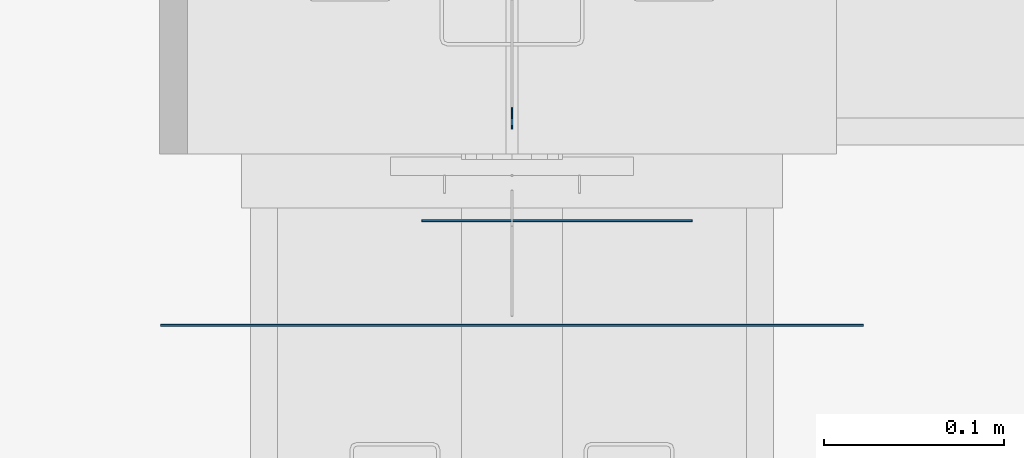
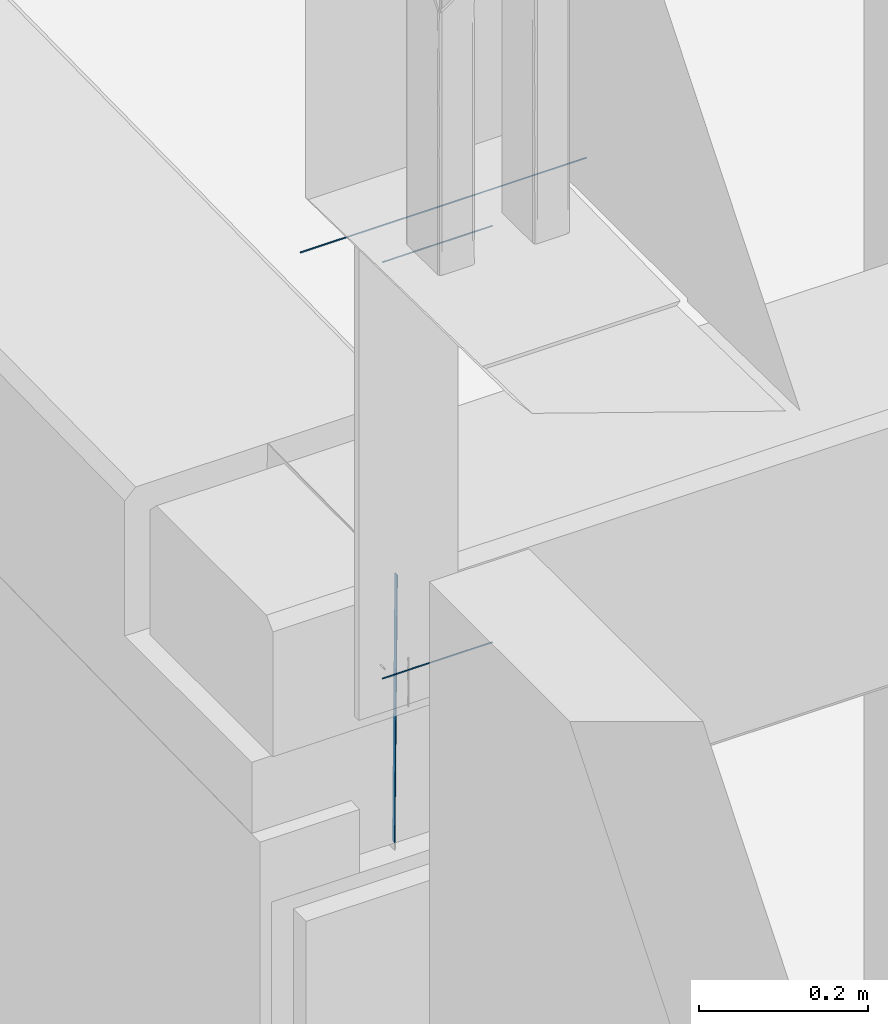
# One storey, part 45 of 186: 4 beams.
"""IFC4X3_ADD2 building model written with IfcOpenShell, lengths in millimetres."""

from ifc_helpers import new_model, si_unit, direction, frame, frame_2d, origin_with_axes, place, context, subcontext, project, spatial, rectangle, extrude, material, element, save


model = new_model("IFC4X3_ADD2")

# Units and contexts
model_context = context("Model", 3, precision=1e-05, world=origin_with_axes(), true_north=direction((0.0, 1.0)))
body_context = subcontext(model_context, "Body", "Model", "MODEL_VIEW")
ifc_project = project(units=[si_unit("LENGTHUNIT", "METRE", prefix="MILLI"), si_unit("AREAUNIT", "SQUARE_METRE"), si_unit("VOLUMEUNIT", "CUBIC_METRE"), si_unit("PLANEANGLEUNIT", "RADIAN"), si_unit("TIMEUNIT", "SECOND"), si_unit("MASSUNIT", "GRAM")], contexts=[model_context])

# Site, building, storey
site_placement = place(None, origin_with_axes())
site = spatial("IfcSite", under=ifc_project, at=site_placement, Name="Site", CompositionType="ELEMENT")
building_placement = place(site_placement, origin_with_axes())
building = spatial("IfcBuilding", under=site, at=building_placement, Name="IFC Building Story")
storey_placement = place(building_placement, frame((0.0, 0.0, 4370.0), z_axis=(0.0, 0.0, 1.0), x_axis=(1.0, 0.0, 0.0)))
storey = spatial("IfcBuildingStorey", under=building, at=storey_placement, Name="ETAGE 10 (1)", Elevation=4370.0)

# Beams
ifc_material_1 = material(Name="STEEL/Accessory_invisible 261")
beam_1_placement = place(storey_placement, frame((39966.6890204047, 18019.8072128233, 3035.47314242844), z_axis=(-1.0, 0.0, 0.0), x_axis=(0.0, -0.01553280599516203, 0.9998793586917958)))
element("IfcBeam", 1, at=beam_1_placement, inside=storey, material=ifc_material_1, Name="BEK4", ObjectType="6*1 7", context=body_context, shape_type="SweptSolid", body=[
    extrude(rectangle(XDim=389.000000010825, YDim=5.999999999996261, at=frame_2d((0.0, 5.95523630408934e-12), x_axis=(1.0, 0.0))), origin_with_axes(), (0.0, 0.0, 1.0), 1.0),
])
ifc_material_2 = material(Name="STEEL/Accessory_invisible")
beam_2_placement = place(storey_placement, frame((40161.189, 17905.0, 3829.449999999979), z_axis=(-1.0, 0.0, 0.0), x_axis=(0.0, -1.0, 0.0)))
element("IfcBeam", 2, at=beam_2_placement, inside=storey, material=ifc_material_2, Name="RH15", ObjectType="1*1 3", context=body_context, shape_type="SweptSolid", body=[
    extrude(rectangle(XDim=0.9999999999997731, YDim=0.9999999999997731, at=frame_2d((0.0, 5.95523630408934e-12), x_axis=(1.0, 0.0))), origin_with_axes(), (0.0, 0.0, 1.0), 390.0),
])
for number, where, z_axis, x_axis, name in (
    (3, (40066.189, 17963.0, 3729.449999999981), (-1.0, 0.0, 0.0), (0.0, -1.0, 0.0), "RH14"),
    (4, (40066.189, 17963.0, 3129.449999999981), (-1.0, 0.0, 0.0), (0.0, -1.0, 0.0), "RH14"),
):
    element("IfcBeam", number, at=place(storey_placement, frame(where, z_axis=z_axis, x_axis=x_axis)), inside=storey, material=ifc_material_2, Name=name, ObjectType="1*1 3", context=body_context, shape_type="SweptSolid", body=[
        extrude(rectangle(XDim=0.9999999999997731, YDim=0.9999999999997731, at=frame_2d((0.0, 5.95523630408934e-12), x_axis=(1.0, 0.0))), origin_with_axes(), (0.0, 0.0, 1.0), 150.0),
    ])

save(model, "model.ifc")
